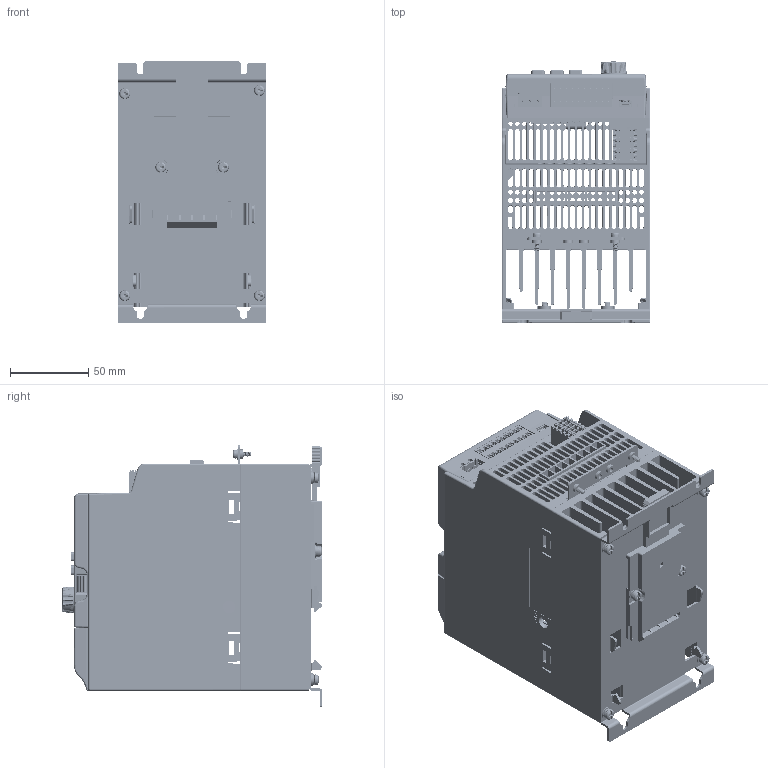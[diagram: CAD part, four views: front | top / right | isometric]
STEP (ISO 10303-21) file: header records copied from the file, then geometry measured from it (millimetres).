
FILE_DESCRIPTION((''),'2;1');
FILE_NAME('B_ASM','2018-03-21T',('zhi2xi'),(''),'PRO/ENGINEER BY PARAMETRIC TECHNOLOGY CORPORATION, 2009380','PRO/ENGINEER BY PARAMETRIC TECHNOLOGY CORPORATION, 2009380','');
FILE_SCHEMA(('CONFIG_CONTROL_DESIGN'));
Length unit declared in the file: millimetre
Products named in the file (54): R912005502_1; MANIFOLD_SOLID_BREP_14099; MANIFOLD_SOLID_BREP_14301; MANIFOLD_SOLID_BREP_14503; MANIFOLD_SOLID_BREP_14705; MANIFOLD_SOLID_BREP_14907; B_5_DIBAN_1_ASM; LDZHJ_SZCYZT_M4X10_1; PL_EFC5610_IOCAE_CONVER_3; LK_YCP06-PLATINE_1; CPU_CONNECTOR-14P_1; CONNECTOR_1; CONNECTOR_TYCO-331_1; 548190519_1; CONNECT2-2_1; 2185-205SY3_1; 1155590000_1; LK_YCP06_ASM_1_ASM; DB272710_1; 01-IOBACK_CASE_1; LD_KCCT_M3X10_1; 01-IOCASE_ASM_1_ASM; 01_DISPLAYCASE_1; DISPLAY_PCB1_1; R911329772_1; R911330025_1; LED_1; CONNECTOR2_1; DISPLAY_PCB_ASM_1_ASM; BACK_CASE1_1; R911330333_FOLIE_1; BUUTTON_1; XUAN_NIU_1; LABEL_15X50_1; 02-DISPLAY-CASE_ASM_1_ASM; PRT0010_1; PRT0031_1; ASM0003_ASM_1_ASM; MANIFOLD_SOLID_BREP_410361; MANIFOLD_SOLID_BREP_410618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
Assembly tree (68 placements, depth 5):
  B_ASM
    00_B_5_ASM_1_ASM
      R912005502_1
      B_5_DIBAN_1_ASM
        MANIFOLD_SOLID_BREP_14099
        MANIFOLD_SOLID_BREP_14301
        MANIFOLD_SOLID_BREP_14503
        MANIFOLD_SOLID_BREP_14705
        MANIFOLD_SOLID_BREP_14907
      LDZHJ_SZCYZT_M4X10_1  x6
      01-IOCASE_ASM_1_ASM
        PL_EFC5610_IOCAE_CONVER_3
        LK_YCP06_ASM_1_ASM
          LK_YCP06-PLATINE_1
          CPU_CONNECTOR-14P_1
          CONNECTOR_1
          CONNECTOR_TYCO-331_1
          548190519_1
          CONNECT2-2_1
          2185-205SY3_1
          1155590000_1
        DB272710_1
        01-IOBACK_CASE_1
        LD_KCCT_M3X10_1  x2
      02-DISPLAY-CASE_ASM_1_ASM
        01_DISPLAYCASE_1
        DISPLAY_PCB_ASM_1_ASM
          DISPLAY_PCB1_1
          R911329772_1  x6
          R911330025_1
          LED_1
          CONNECTOR2_1
          CONNECTOR_TYCO-331_1
        BACK_CASE1_1
        R911330333_FOLIE_1
        BUUTTON_1
        XUAN_NIU_1
        LD_KCCT_M3X10_1  x2
        LABEL_15X50_1
      ASM0003_ASM_1_ASM
        PRT0010_1
        PRT0031_1
      GND_1_ASM
        MANIFOLD_SOLID_BREP_410361
        MANIFOLD_SOLID_BREP_410618
        MANIFOLD_SOLID_BREP_410875
        MANIFOLD_SOLID_BREP_411132
        MANIFOLD_SOLID_BREP_411389
        MANIFOLD_SOLID_BREP_411646
        MANIFOLD_SOLID_BREP_411903
        MANIFOLD_SOLID_BREP_412160
        MANIFOLD_SOLID_BREP_412417
      LDZHJ_SZCYZT_M3X10_1  x2
      LOGO_REXROTH_1
      EFC5610_0K4_CASE_RE_1
      STO_2_1
Bounding box: 95 x 166.55 x 167.5 mm (x, y, z)
Volume: 470532 mm3; surface area: 452144.7 mm2
Topology: 59 solids, 80 shells, 10803 faces, 28955 edges, 18451 vertices
Faces by surface type: plane 6128, cylinder 2649, bspline 1072, torus 367, cone 269, extrusion 153, sphere 145, revolution 20
Entity records: 430314 total; most frequent: CARTESIAN_POINT 130289, ORIENTED_EDGE 51014, DIRECTION 45915, EDGE_CURVE 25557, VECTOR 17503, LINE 17359, VERTEX_POINT 16354, AXIS2_PLACEMENT_3D 14196
